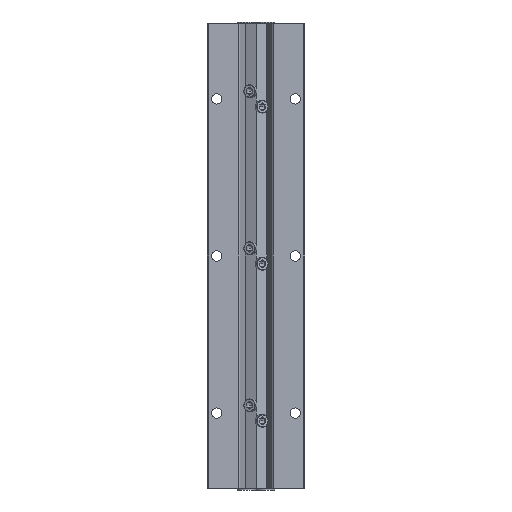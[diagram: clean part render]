
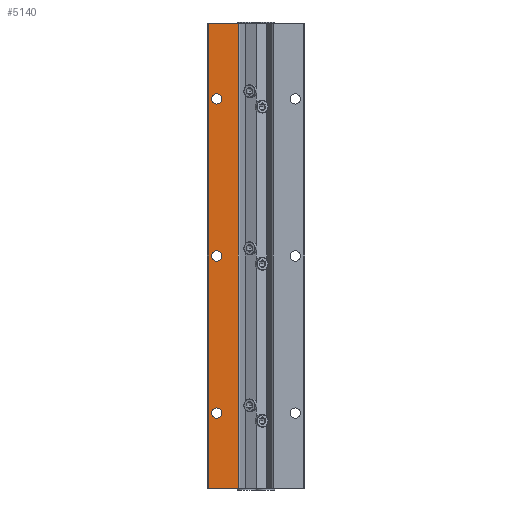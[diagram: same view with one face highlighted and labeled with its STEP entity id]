
A CAD part, front view. The second image highlights one B-rep face of the part: STEP entity #5140.
In plain terms, the highlighted planar face has unit normal (0, -1, 0).
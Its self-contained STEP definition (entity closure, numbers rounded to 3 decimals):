
#456 = CIRCLE ( 'NONE', #551, 3.25 ) ;
#546 = CARTESIAN_POINT ( 'NONE',  ( -25., 0., -244.75 ) ) ;
#547 = CARTESIAN_POINT ( 'NONE',  ( -25., 0., -251.25 ) ) ;
#548 = DIRECTION ( 'NONE',  ( 0., 0., -1. ) ) ;
#549 = DIRECTION ( 'NONE',  ( 0., 1., 0. ) ) ;
#550 = CARTESIAN_POINT ( 'NONE',  ( -25., 0., -248. ) ) ;
#551 = AXIS2_PLACEMENT_3D ( 'NONE', #550, #549, #548 ) ;
#553 = CARTESIAN_POINT ( 'NONE',  ( -25., 0., -144.75 ) ) ;
#554 = CARTESIAN_POINT ( 'NONE',  ( -25., 0., -151.25 ) ) ;
#555 = DIRECTION ( 'NONE',  ( 0., 0., -1. ) ) ;
#556 = DIRECTION ( 'NONE',  ( 0., 1., 0. ) ) ;
#557 = CARTESIAN_POINT ( 'NONE',  ( -25., 0., -148. ) ) ;
#558 = AXIS2_PLACEMENT_3D ( 'NONE', #557, #556, #555 ) ;
#563 = CIRCLE ( 'NONE', #558, 3.25 ) ;
#904 = CIRCLE ( 'NONE', #963, 3.25 ) ;
#958 = CARTESIAN_POINT ( 'NONE',  ( -25., 0., -44.75 ) ) ;
#959 = CARTESIAN_POINT ( 'NONE',  ( -25., 0., -51.25 ) ) ;
#960 = DIRECTION ( 'NONE',  ( 0., 0., -1. ) ) ;
#961 = DIRECTION ( 'NONE',  ( 0., 1., 0. ) ) ;
#962 = CARTESIAN_POINT ( 'NONE',  ( -25., 0., -48. ) ) ;
#963 = AXIS2_PLACEMENT_3D ( 'NONE', #962, #961, #960 ) ;
#2856 = CARTESIAN_POINT ( 'NONE',  ( -11.193, 0., 0. ) ) ;
#2857 = DIRECTION ( 'NONE',  ( 1., 0., 0. ) ) ;
#2858 = VECTOR ( 'NONE', #2857, 1000. ) ;
#2859 = CARTESIAN_POINT ( 'NONE',  ( -11.193, 0., 0. ) ) ;
#2860 = LINE ( 'NONE', #2859, #2858 ) ;
#2861 = CARTESIAN_POINT ( 'NONE',  ( -30., 0., 0. ) ) ;
#3414 = EDGE_CURVE ( 'NONE', #3415, #3416, #456, .T. ) ;
#3415 = VERTEX_POINT ( 'NONE', #547 ) ;
#3416 = VERTEX_POINT ( 'NONE', #546 ) ;
#3443 = EDGE_CURVE ( 'NONE', #3444, #3445, #563, .T. ) ;
#3444 = VERTEX_POINT ( 'NONE', #554 ) ;
#3445 = VERTEX_POINT ( 'NONE', #553 ) ;
#3686 = EDGE_CURVE ( 'NONE', #3687, #3688, #904, .T. ) ;
#3687 = VERTEX_POINT ( 'NONE', #959 ) ;
#3688 = VERTEX_POINT ( 'NONE', #958 ) ;
#4812 = VERTEX_POINT ( 'NONE', #2861 ) ;
#4814 = EDGE_CURVE ( 'NONE', #4812, #4815, #2860, .T. ) ;
#4815 = VERTEX_POINT ( 'NONE', #2856 ) ;
#4969 = ORIENTED_EDGE ( 'NONE', *, *, #3686, .T. ) ;
#4970 = EDGE_LOOP ( 'NONE', ( #4971, #4972, #4975, #4977 ) ) ;
#4971 = ORIENTED_EDGE ( 'NONE', *, *, #4814, .F. ) ;
#4972 = ORIENTED_EDGE ( 'NONE', *, *, #4973, .F. ) ;
#4973 = EDGE_CURVE ( 'NONE', #4974, #4812, #5728, .T. ) ;
#4974 = VERTEX_POINT ( 'NONE', #5724 ) ;
#4975 = ORIENTED_EDGE ( 'NONE', *, *, #4976, .T. ) ;
#4976 = EDGE_CURVE ( 'NONE', #4974, #5136, #5723, .T. ) ;
#4977 = ORIENTED_EDGE ( 'NONE', *, *, #5135, .T. ) ;
#5135 = EDGE_CURVE ( 'NONE', #5136, #4815, #6096, .T. ) ;
#5136 = VERTEX_POINT ( 'NONE', #6092 ) ;
#5140 = ADVANCED_FACE ( 'NONE', ( #6086, #6085, #6084, #6083 ), #6082, .T. ) ;
#5141 = EDGE_LOOP ( 'NONE', ( #5162, #5164 ) ) ;
#5162 = ORIENTED_EDGE ( 'NONE', *, *, #5163, .T. ) ;
#5163 = EDGE_CURVE ( 'NONE', #3416, #3415, #6046, .T. ) ;
#5164 = ORIENTED_EDGE ( 'NONE', *, *, #3414, .T. ) ;
#5165 = EDGE_LOOP ( 'NONE', ( #5166, #5168 ) ) ;
#5166 = ORIENTED_EDGE ( 'NONE', *, *, #5167, .T. ) ;
#5167 = EDGE_CURVE ( 'NONE', #3445, #3444, #6041, .T. ) ;
#5168 = ORIENTED_EDGE ( 'NONE', *, *, #3443, .T. ) ;
#5169 = EDGE_LOOP ( 'NONE', ( #5195, #4969 ) ) ;
#5195 = ORIENTED_EDGE ( 'NONE', *, *, #5196, .T. ) ;
#5196 = EDGE_CURVE ( 'NONE', #3688, #3687, #5914, .T. ) ;
#5720 = DIRECTION ( 'NONE',  ( 1., 0., 0. ) ) ;
#5721 = VECTOR ( 'NONE', #5720, 1000. ) ;
#5722 = CARTESIAN_POINT ( 'NONE',  ( -11.193, 0., -296. ) ) ;
#5723 = LINE ( 'NONE', #5722, #5721 ) ;
#5724 = CARTESIAN_POINT ( 'NONE',  ( -30., 0., -296. ) ) ;
#5725 = DIRECTION ( 'NONE',  ( 0., 0., 1. ) ) ;
#5726 = VECTOR ( 'NONE', #5725, 1000. ) ;
#5727 = CARTESIAN_POINT ( 'NONE',  ( -30., 0., -296. ) ) ;
#5728 = LINE ( 'NONE', #5727, #5726 ) ;
#5910 = DIRECTION ( 'NONE',  ( 0., 0., -1. ) ) ;
#5911 = DIRECTION ( 'NONE',  ( 0., 1., 0. ) ) ;
#5912 = CARTESIAN_POINT ( 'NONE',  ( -25., 0., -48. ) ) ;
#5913 = AXIS2_PLACEMENT_3D ( 'NONE', #5912, #5911, #5910 ) ;
#5914 = CIRCLE ( 'NONE', #5913, 3.25 ) ;
#6037 = DIRECTION ( 'NONE',  ( 0., 0., -1. ) ) ;
#6038 = DIRECTION ( 'NONE',  ( 0., 1., 0. ) ) ;
#6039 = CARTESIAN_POINT ( 'NONE',  ( -25., 0., -148. ) ) ;
#6040 = AXIS2_PLACEMENT_3D ( 'NONE', #6039, #6038, #6037 ) ;
#6041 = CIRCLE ( 'NONE', #6040, 3.25 ) ;
#6042 = DIRECTION ( 'NONE',  ( 0., 0., -1. ) ) ;
#6043 = DIRECTION ( 'NONE',  ( 0., 1., 0. ) ) ;
#6044 = CARTESIAN_POINT ( 'NONE',  ( -25., 0., -248. ) ) ;
#6045 = AXIS2_PLACEMENT_3D ( 'NONE', #6044, #6043, #6042 ) ;
#6046 = CIRCLE ( 'NONE', #6045, 3.25 ) ;
#6078 = DIRECTION ( 'NONE',  ( 0., 0., -1. ) ) ;
#6079 = DIRECTION ( 'NONE',  ( 0., -1., 0. ) ) ;
#6080 = CARTESIAN_POINT ( 'NONE',  ( -11.193, 0., -296. ) ) ;
#6081 = AXIS2_PLACEMENT_3D ( 'NONE', #6080, #6079, #6078 ) ;
#6082 = PLANE ( 'NONE',  #6081 ) ;
#6083 = FACE_OUTER_BOUND ( 'NONE', #4970, .T. ) ;
#6084 = FACE_BOUND ( 'NONE', #5169, .T. ) ;
#6085 = FACE_BOUND ( 'NONE', #5165, .T. ) ;
#6086 = FACE_BOUND ( 'NONE', #5141, .T. ) ;
#6092 = CARTESIAN_POINT ( 'NONE',  ( -11.193, 0., -296. ) ) ;
#6093 = DIRECTION ( 'NONE',  ( 0., 0., 1. ) ) ;
#6094 = VECTOR ( 'NONE', #6093, 1000. ) ;
#6095 = CARTESIAN_POINT ( 'NONE',  ( -11.193, 0., -296. ) ) ;
#6096 = LINE ( 'NONE', #6095, #6094 ) ;
